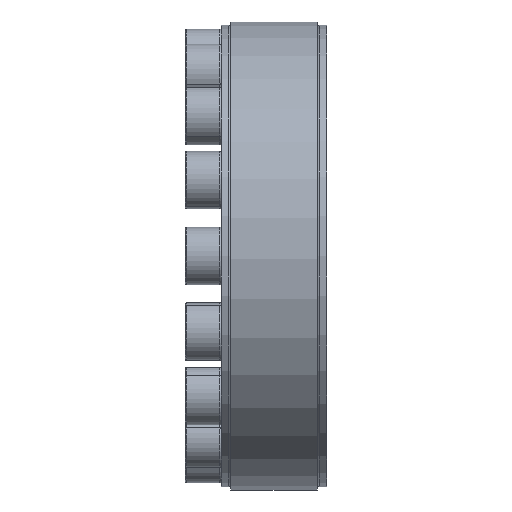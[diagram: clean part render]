
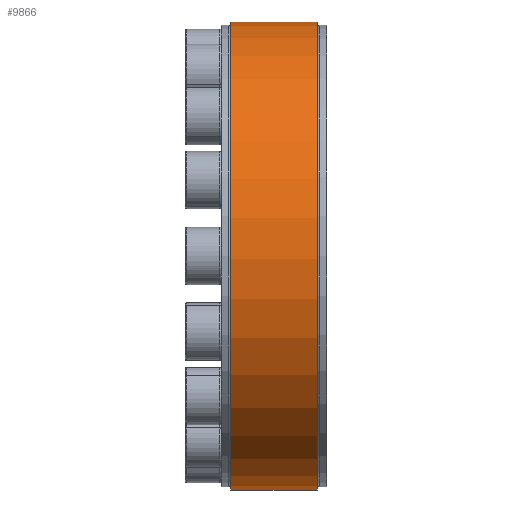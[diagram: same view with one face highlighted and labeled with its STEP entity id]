
A CAD part, front view. The second image highlights one B-rep face of the part: STEP entity #9866.
In plain terms, the highlighted cylindrical face has radius 65 mm (diameter 130 mm), a partial arc.
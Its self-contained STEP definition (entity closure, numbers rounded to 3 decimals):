
#294 = LINE ( 'NONE', #4209, #3055 ) ;
#392 = CIRCLE ( 'NONE', #6823, 65. ) ;
#719 = DIRECTION ( 'NONE',  ( -1., 0., 0. ) ) ;
#796 = DIRECTION ( 'NONE',  ( 0., 0., 1. ) ) ;
#1390 = DIRECTION ( 'NONE',  ( 1., 0., 0. ) ) ;
#1568 = DIRECTION ( 'NONE',  ( -1., 0., 0. ) ) ;
#1604 = VERTEX_POINT ( 'NONE', #2162 ) ;
#2162 = CARTESIAN_POINT ( 'NONE',  ( -12., 1.5, 64.983 ) ) ;
#2409 = VERTEX_POINT ( 'NONE', #10566 ) ;
#2550 = EDGE_LOOP ( 'NONE', ( #9495, #7913, #11007, #8780 ) ) ;
#2909 = EDGE_CURVE ( 'NONE', #9954, #2409, #294, .T. ) ;
#2926 = CARTESIAN_POINT ( 'NONE',  ( -14.578, 0., 0. ) ) ;
#3055 = VECTOR ( 'NONE', #1390, 1000. ) ;
#4209 = CARTESIAN_POINT ( 'NONE',  ( -14.578, -1.5, 64.983 ) ) ;
#4646 = VERTEX_POINT ( 'NONE', #11897 ) ;
#4804 = DIRECTION ( 'NONE',  ( -1., 0., 0. ) ) ;
#5765 = CIRCLE ( 'NONE', #10825, 65. ) ;
#6130 = VECTOR ( 'NONE', #719, 1000. ) ;
#6372 = DIRECTION ( 'NONE',  ( -1., 0., 0. ) ) ;
#6414 = LINE ( 'NONE', #10083, #6130 ) ;
#6745 = CYLINDRICAL_SURFACE ( 'NONE', #11452, 65. ) ;
#6774 = EDGE_CURVE ( 'NONE', #1604, #9954, #5765, .T. ) ;
#6823 = AXIS2_PLACEMENT_3D ( 'NONE', #11995, #6372, #796 ) ;
#7048 = FACE_OUTER_BOUND ( 'NONE', #2550, .T. ) ;
#7133 = CARTESIAN_POINT ( 'NONE',  ( -12., 0., 0. ) ) ;
#7913 = ORIENTED_EDGE ( 'NONE', *, *, #8615, .T. ) ;
#8095 = DIRECTION ( 'NONE',  ( 0., 0., 1. ) ) ;
#8615 = EDGE_CURVE ( 'NONE', #4646, #2409, #392, .T. ) ;
#8780 = ORIENTED_EDGE ( 'NONE', *, *, #6774, .F. ) ;
#9495 = ORIENTED_EDGE ( 'NONE', *, *, #11834, .F. ) ;
#9866 = ADVANCED_FACE ( 'NONE', ( #7048 ), #6745, .T. ) ;
#9954 = VERTEX_POINT ( 'NONE', #10537 ) ;
#10083 = CARTESIAN_POINT ( 'NONE',  ( -14.578, 1.5, 64.983 ) ) ;
#10537 = CARTESIAN_POINT ( 'NONE',  ( -12., -1.5, 64.983 ) ) ;
#10566 = CARTESIAN_POINT ( 'NONE',  ( 12., -1.5, 64.983 ) ) ;
#10825 = AXIS2_PLACEMENT_3D ( 'NONE', #7133, #1568, #8095 ) ;
#11007 = ORIENTED_EDGE ( 'NONE', *, *, #2909, .F. ) ;
#11355 = DIRECTION ( 'NONE',  ( 0., 0., 1. ) ) ;
#11452 = AXIS2_PLACEMENT_3D ( 'NONE', #2926, #4804, #11355 ) ;
#11834 = EDGE_CURVE ( 'NONE', #4646, #1604, #6414, .T. ) ;
#11897 = CARTESIAN_POINT ( 'NONE',  ( 12., 1.5, 64.983 ) ) ;
#11995 = CARTESIAN_POINT ( 'NONE',  ( 12., 0., 0. ) ) ;
